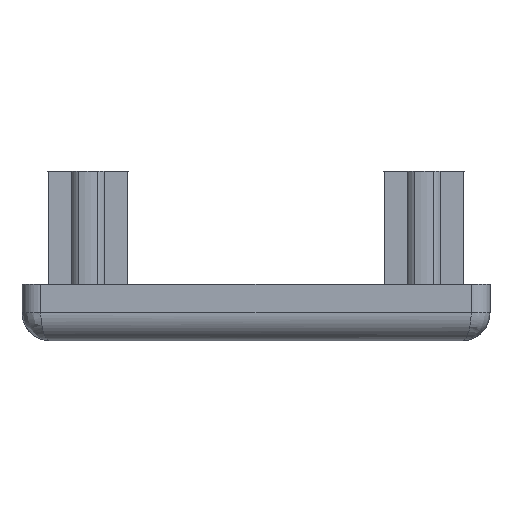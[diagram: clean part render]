
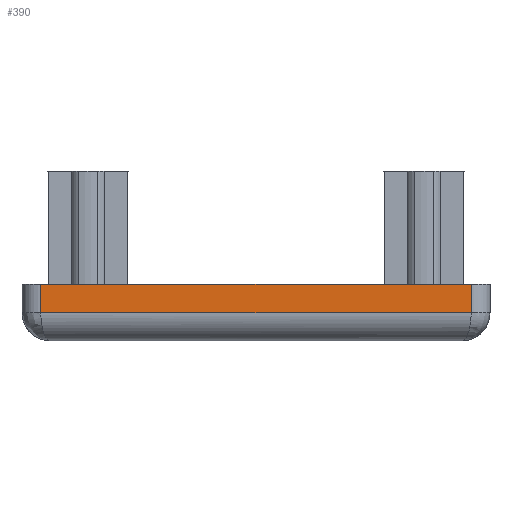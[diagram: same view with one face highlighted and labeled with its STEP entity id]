
A CAD part, left-side view. The second image highlights one B-rep face of the part: STEP entity #390.
In plain terms, the highlighted planar face has unit normal (-1, 0, 0).
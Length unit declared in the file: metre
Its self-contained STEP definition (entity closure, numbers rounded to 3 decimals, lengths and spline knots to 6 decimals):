
#390 = ADVANCED_FACE( 'NONE', ( #797 ), #798, .T. );
#797 = FACE_OUTER_BOUND( '', #1398, .T. );
#798 = PLANE( '', #1399 );
#1398 = EDGE_LOOP( '', ( #2519, #2520, #2521, #2522 ) );
#1399 = AXIS2_PLACEMENT_3D( '', #2523, #2524, #2525 );
#2519 = ORIENTED_EDGE( '', *, *, #3034, .T. );
#2520 = ORIENTED_EDGE( '', *, *, #2831, .T. );
#2521 = ORIENTED_EDGE( '', *, *, #2925, .T. );
#2522 = ORIENTED_EDGE( '', *, *, #3010, .T. );
#2523 = CARTESIAN_POINT( '', ( -0.0249, 0.0124, 0.003 ) );
#2524 = DIRECTION( '', ( -1., 0., 0. ) );
#2525 = DIRECTION( '', ( 0., 0., 1. ) );
#2831 = EDGE_CURVE( 'NONE', #3451, #3449, #3452, .T. );
#2925 = EDGE_CURVE( 'NONE', #3449, #3583, #3586, .T. );
#3010 = EDGE_CURVE( 'NONE', #3583, #3688, #3690, .T. );
#3034 = EDGE_CURVE( 'NONE', #3688, #3451, #3718, .T. );
#3449 = VERTEX_POINT( 'NONE', #4290 );
#3451 = VERTEX_POINT( 'NONE', #4306 );
#3452 = LINE( '', #4307, #4308 );
#3583 = VERTEX_POINT( 'NONE', #4502 );
#3586 = LINE( '', #4505, #4506 );
#3688 = VERTEX_POINT( 'NONE', #4692 );
#3690 = LINE( '', #4694, #4695 );
#3718 = LINE( '', #4734, #4735 );
#4290 = CARTESIAN_POINT( '', ( -0.0249, -0.0114, 0.0015 ) );
#4306 = CARTESIAN_POINT( '', ( -0.0249, 0.0114, 0.0015 ) );
#4307 = CARTESIAN_POINT( '', ( -0.0249, -0.0114, 0.0015 ) );
#4308 = VECTOR( '', #5076, 1. );
#4502 = CARTESIAN_POINT( '', ( -0.0249, -0.0114, 0.003 ) );
#4505 = CARTESIAN_POINT( '', ( -0.0249, -0.0114, 0.003 ) );
#4506 = VECTOR( '', #5199, 1. );
#4692 = CARTESIAN_POINT( '', ( -0.0249, 0.0114, 0.003 ) );
#4694 = CARTESIAN_POINT( '', ( -0.0249, 0.0124, 0.003 ) );
#4695 = VECTOR( '', #5261, 1. );
#4734 = CARTESIAN_POINT( '', ( -0.0249, 0.0114, 0. ) );
#4735 = VECTOR( '', #5276, 1. );
#5076 = DIRECTION( '', ( 0., -1., 0. ) );
#5199 = DIRECTION( '', ( 0., 0., 1. ) );
#5261 = DIRECTION( '', ( 0., 1., 0. ) );
#5276 = DIRECTION( '', ( 0., 0., -1. ) );
